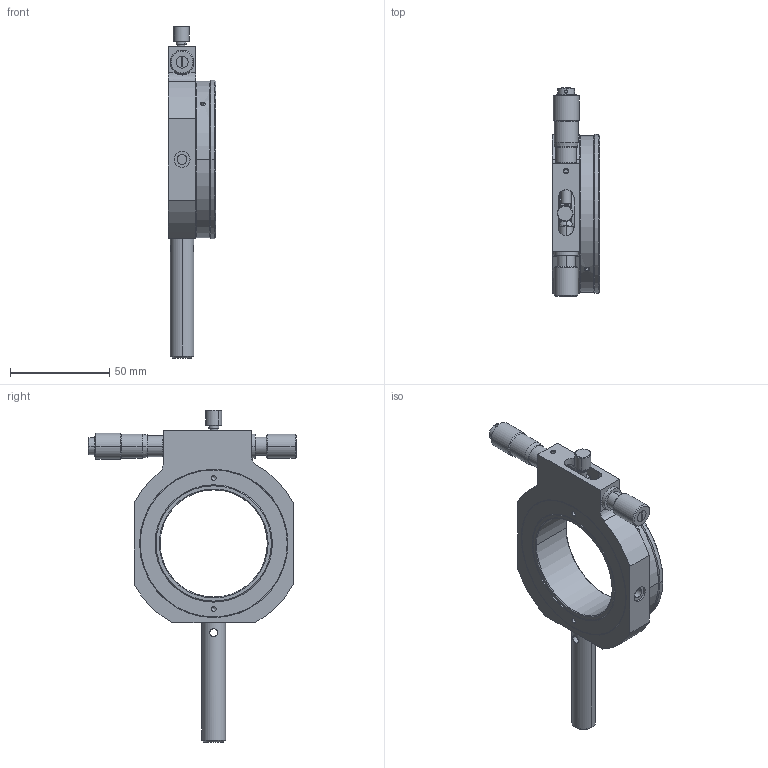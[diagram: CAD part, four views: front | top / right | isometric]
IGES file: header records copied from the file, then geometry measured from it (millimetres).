
Global section: file name: No Iges File Name specified; native system: AutoDesk Inventor R12.0; preprocessor: AutoDesk Inventor Iges Exporter R12.0; date: 20120413.195347; units: millimetre
Bounding box: 24 x 104.87 x 167.2 mm (x, y, z)
Volume: 92485.1 mm3; surface area: 42036 mm2
Topology: 14 solids, 14 shells, 377 faces, 878 edges, 542 vertices
Faces by surface type: plane 107, cylinder 82, bspline 67, cone 59, revolution 54, sphere 8
